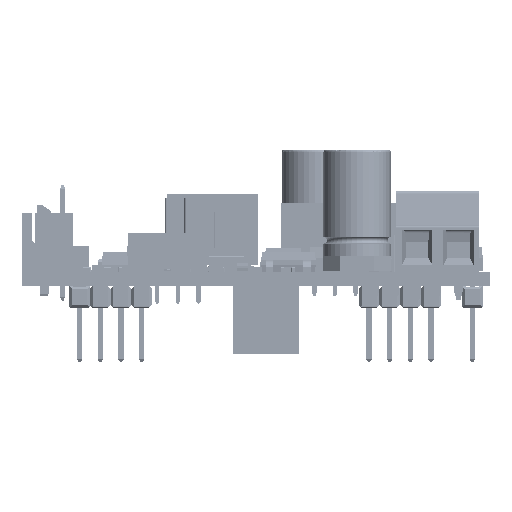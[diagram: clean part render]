
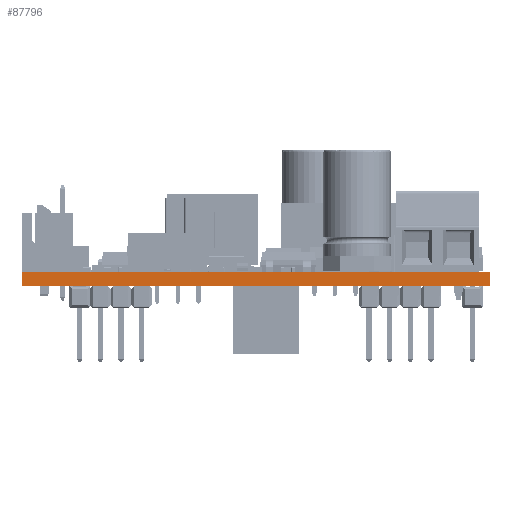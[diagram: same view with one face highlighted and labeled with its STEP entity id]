
A CAD part, left-side view. The second image highlights one B-rep face of the part: STEP entity #87796.
In plain terms, the highlighted planar face has unit normal (-1, 0, 0).
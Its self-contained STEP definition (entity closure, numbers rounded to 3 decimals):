
#2933=PLANE('',#94102);
#7184=FACE_OUTER_BOUND('',#12094,.T.);
#12094=EDGE_LOOP('',(#61202,#61203,#61204,#61205));
#17961=LINE('',#124998,#28208);
#17962=LINE('',#125000,#28209);
#17963=LINE('',#125002,#28210);
#17964=LINE('',#125003,#28211);
#28208=VECTOR('',#102051,10.);
#28209=VECTOR('',#102052,10.);
#28210=VECTOR('',#102053,10.);
#28211=VECTOR('',#102054,10.);
#40191=VERTEX_POINT('',#124996);
#40192=VERTEX_POINT('',#124997);
#40193=VERTEX_POINT('',#124999);
#40194=VERTEX_POINT('',#125001);
#48487=EDGE_CURVE('',#40191,#40192,#17961,.T.);
#48488=EDGE_CURVE('',#40191,#40193,#17962,.T.);
#48489=EDGE_CURVE('',#40194,#40193,#17963,.T.);
#48490=EDGE_CURVE('',#40192,#40194,#17964,.T.);
#61202=ORIENTED_EDGE('',*,*,#48487,.F.);
#61203=ORIENTED_EDGE('',*,*,#48488,.T.);
#61204=ORIENTED_EDGE('',*,*,#48489,.F.);
#61205=ORIENTED_EDGE('',*,*,#48490,.F.);
#87796=ADVANCED_FACE('',(#7184),#2933,.T.);
#94102=AXIS2_PLACEMENT_3D('',#124995,#102049,#102050);
#102049=DIRECTION('center_axis',(-1.,0.,0.));
#102050=DIRECTION('ref_axis',(0.,-1.,0.));
#102051=DIRECTION('',(0.,1.,0.));
#102052=DIRECTION('',(0.,0.,1.));
#102053=DIRECTION('',(0.,-1.,0.));
#102054=DIRECTION('',(0.,0.,1.));
#124995=CARTESIAN_POINT('Origin',(0.,57.5,0.));
#124996=CARTESIAN_POINT('',(0.,0.,0.));
#124997=CARTESIAN_POINT('',(0.,57.5,0.));
#124998=CARTESIAN_POINT('',(0.,0.,0.));
#124999=CARTESIAN_POINT('',(0.,0.,1.67));
#125000=CARTESIAN_POINT('',(0.,0.,0.));
#125001=CARTESIAN_POINT('',(0.,57.5,1.67));
#125002=CARTESIAN_POINT('',(0.,0.,1.67));
#125003=CARTESIAN_POINT('',(0.,57.5,0.));
